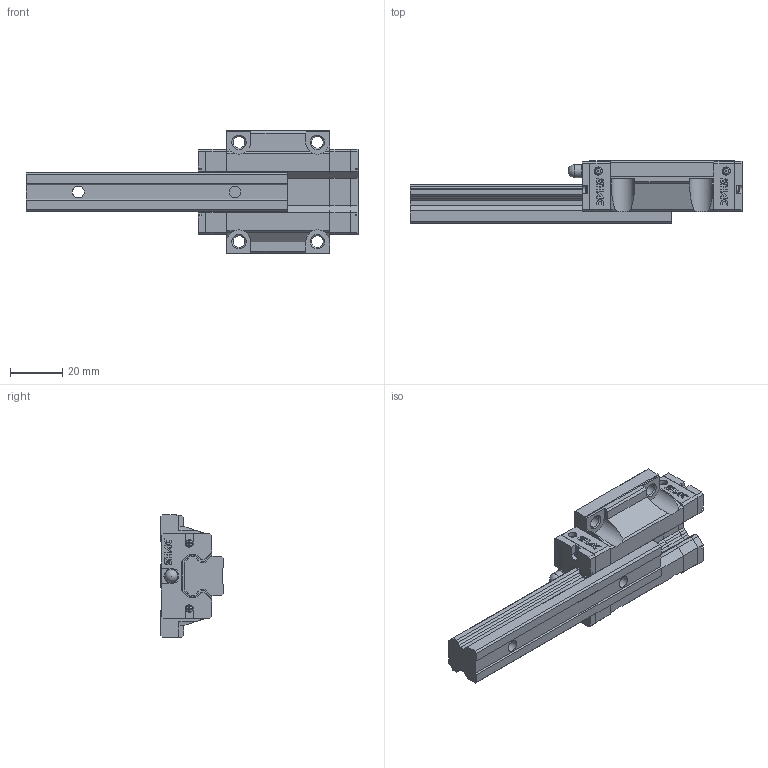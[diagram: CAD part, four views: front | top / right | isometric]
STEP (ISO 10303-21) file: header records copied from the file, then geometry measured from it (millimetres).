
FILE_DESCRIPTION( ( 'STEP AP214' ), '1' );
FILE_NAME( 'F:/品牌/SHAC 台湾鼎翰传动科技有限公司/3D滑块/GHW15CB1R100Z0C-20_20_1_1_.stp', '2025-04-21T22:47:28', ( 'License CC BY-ND 4.0' ), ( 'CADENAS' ), ' ', 'PARTsolutions', ' ' );
FILE_SCHEMA( ( 'AUTOMOTIVE_DESIGN { 1 0 10303 214 1 1 1 1 }' ) );
Length unit declared in the file: millimetre
Products named in the file (8): GHW15CB1R100Z0C-20/20(1_1); _GHR15R100C+RC-20/20(1)_RAIL; _GHW15CB_SLIDER; _GHW15CB_C; _GHW15CB_P; _GH15_SCREW; _GH15_BOLT; _GH15-_G
Assembly tree (12 placements, depth 2):
  GHW15CB1R100Z0C-20/20(1_1)
    _GHR15R100C+RC-20/20(1)_RAIL
    _GHW15CB_SLIDER
    _GHW15CB_C  x2
    _GHW15CB_P  x2
    _GH15_SCREW  x4
    _GH15_BOLT
    _GH15-_G
Bounding box: 127.1 x 24 x 47 mm (x, y, z)
Volume: 53368.1 mm3; surface area: 21959.4 mm2
Topology: 12 solids, 12 shells, 781 faces, 2103 edges, 1392 vertices
Faces by surface type: plane 643, cylinder 108, cone 16, torus 9, sphere 5
Full cylindrical faces by diameter (mm): 0.426 x4, 2.5 x4, 2.64 x4, 3.15 x6, 4 x2, 4.5 x6, 4.6 x2, 5 x1, 5.5 x1, 7.5 x2
Entity records: 18412 total; most frequent: CARTESIAN_POINT 2602, ORIENTED_EDGE 2458, DIRECTION 2372, EDGE_CURVE 1229, LINE 1032, VECTOR 1032, VERTEX_POINT 836, AXIS2_PLACEMENT_3D 670
